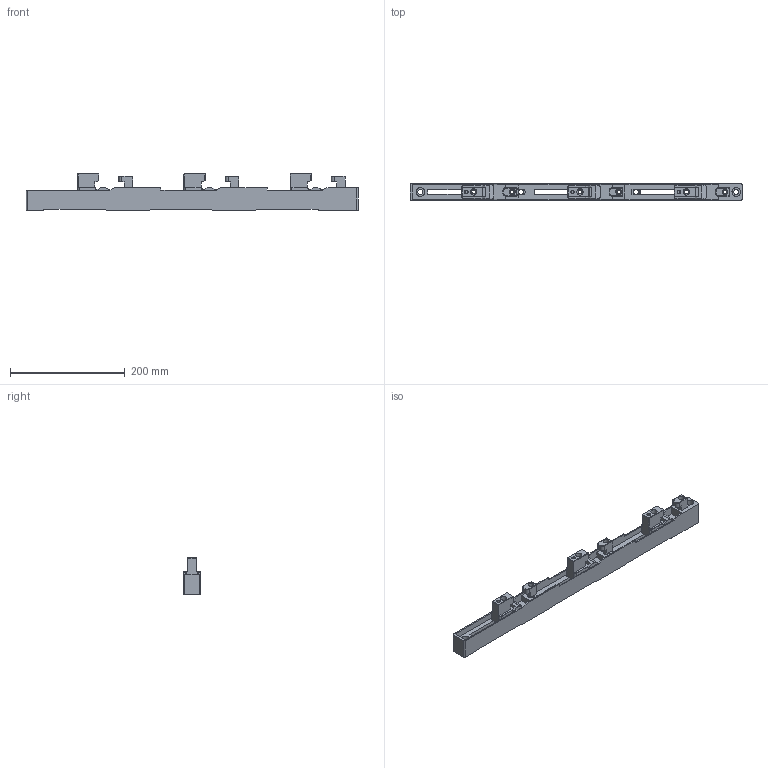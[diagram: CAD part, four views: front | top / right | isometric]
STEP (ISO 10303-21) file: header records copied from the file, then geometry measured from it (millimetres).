
FILE_DESCRIPTION (( 'STEP AP214' ), '1' );
FILE_NAME ('52231.STEP', '2021-08-09T06:18:20', ( '' ), ( '' ), 'SwSTEP 2.0', 'SolidWorks 2017', '' );
FILE_SCHEMA (( 'AUTOMOTIVE_DESIGN' ));
Length unit declared in the file: millimetre
Products named in the file (2): 52231
Bounding box: 578 x 29 x 63.9 mm (x, y, z)
Volume: 388684.5 mm3; surface area: 154214.9 mm2
Topology: 7 solids, 7 shells, 550 faces, 1425 edges, 901 vertices
Faces by surface type: plane 353, cylinder 146, bspline 42, cone 6, torus 3
Full cylindrical faces by diameter (mm): 5.2 x3, 6 x3, 6.5 x3, 7 x3, 9 x4, 10 x3, 10.6 x3, 10.8 x3, 11 x3, 15 x2
Entity records: 20639 total; most frequent: CARTESIAN_POINT 5351, ORIENTED_EDGE 2756, DIRECTION 2569, EDGE_CURVE 1378, LINE 1001, VECTOR 1001, VERTEX_POINT 890, AXIS2_PLACEMENT_3D 784
